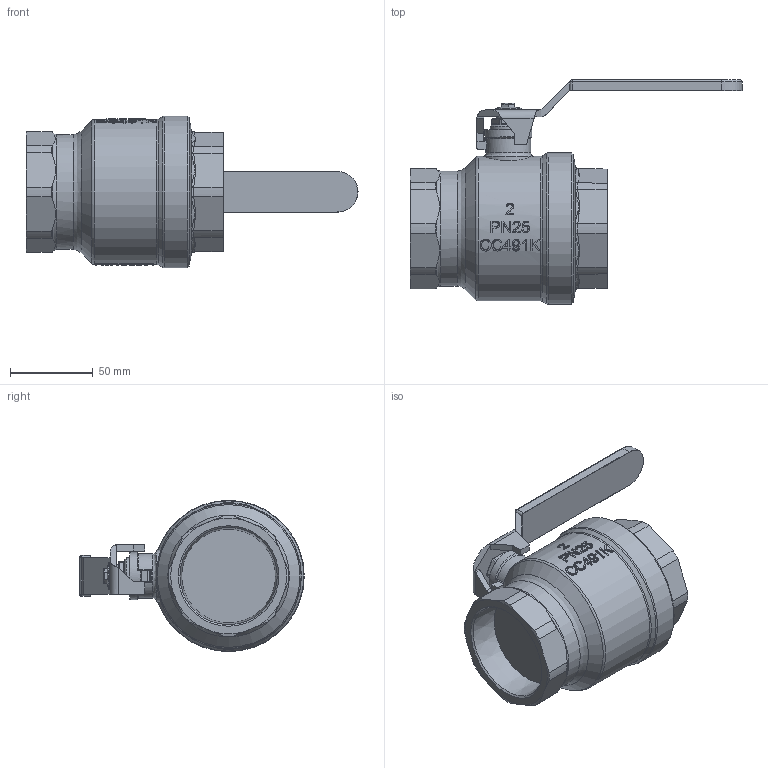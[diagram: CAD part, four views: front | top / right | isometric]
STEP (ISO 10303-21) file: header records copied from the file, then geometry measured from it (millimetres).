
FILE_DESCRIPTION((''),'2;1');
FILE_NAME('P:\Fastrack\53972_CRANE 3D\Ball Valves\Workplace\Crane Ball Valves\D171_2in\D171_2in.stp','2011-02-09T16:46:52',('btaylor'),(''),'Autodesk Inventor 2008','Autodesk Inventor 2008','');
FILE_SCHEMA(('AUTOMOTIVE_DESIGN { 1 0 10303 214 1 1 1 1 }'));
Length unit declared in the file: millimetre
Products named in the file (1): D171_2in
Bounding box: 200.75 x 135.75 x 91.5 mm (x, y, z)
Volume: 552607.1 mm3; surface area: 61085.2 mm2
Topology: 1 solids, 1 shells, 1306 faces, 3574 edges, 2336 vertices
Faces by surface type: plane 731, bspline 395, cylinder 83, cone 80, torus 15, sphere 2
Full cylindrical faces by diameter (mm): 14 x1, 16 x1, 22 x1, 27 x1, 28.5 x1, 69.5 x1, 87.5 x1, 91.5 x1
Entity records: 80270 total; most frequent: CARTESIAN_POINT 49865, ORIENTED_EDGE 7068, DIRECTION 4613, EDGE_CURVE 3534, VERTEX_POINT 2326, VECTOR 2047, LINE 2047, EDGE_LOOP 1434
